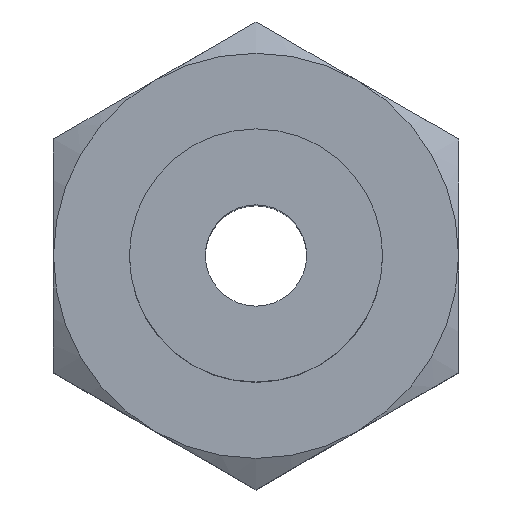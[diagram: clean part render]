
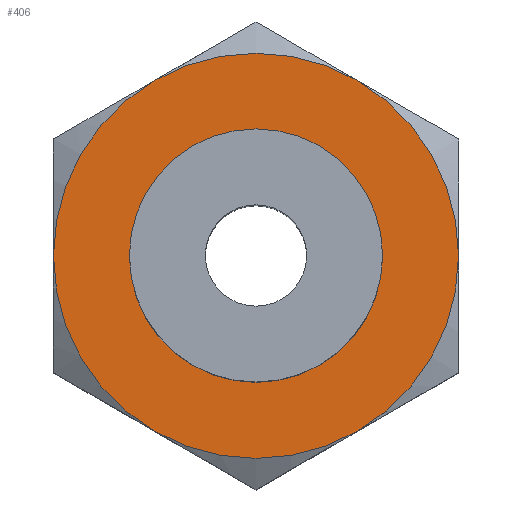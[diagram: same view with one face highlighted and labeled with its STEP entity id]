
A CAD part, top view. The second image highlights one B-rep face of the part: STEP entity #406.
In plain terms, the highlighted planar face has unit normal (0, 0, 1).
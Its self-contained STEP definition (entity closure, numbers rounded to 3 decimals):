
#15=FACE_BOUND('',#106,.T.);
#19=PLANE('',#470);
#79=FACE_OUTER_BOUND('',#105,.T.);
#105=EDGE_LOOP('',(#305,#306,#307,#308,#309,#310));
#106=EDGE_LOOP('',(#311,#312));
#149=CIRCLE('',#459,4.);
#150=CIRCLE('',#461,4.);
#151=CIRCLE('',#463,4.);
#152=CIRCLE('',#465,4.);
#153=CIRCLE('',#467,4.);
#154=CIRCLE('',#469,4.);
#155=CIRCLE('',#471,2.5);
#156=CIRCLE('',#472,2.5);
#179=VERTEX_POINT('',#673);
#180=VERTEX_POINT('',#677);
#181=VERTEX_POINT('',#683);
#183=VERTEX_POINT('',#693);
#186=VERTEX_POINT('',#704);
#187=VERTEX_POINT('',#713);
#190=VERTEX_POINT('',#732);
#191=VERTEX_POINT('',#733);
#223=EDGE_CURVE('',#180,#179,#149,.T.);
#225=EDGE_CURVE('',#181,#180,#150,.T.);
#228=EDGE_CURVE('',#183,#181,#151,.T.);
#232=EDGE_CURVE('',#179,#186,#152,.T.);
#234=EDGE_CURVE('',#187,#183,#153,.T.);
#238=EDGE_CURVE('',#186,#187,#154,.T.);
#239=EDGE_CURVE('',#190,#191,#155,.T.);
#240=EDGE_CURVE('',#191,#190,#156,.T.);
#305=ORIENTED_EDGE('',*,*,#232,.F.);
#306=ORIENTED_EDGE('',*,*,#223,.F.);
#307=ORIENTED_EDGE('',*,*,#225,.F.);
#308=ORIENTED_EDGE('',*,*,#228,.F.);
#309=ORIENTED_EDGE('',*,*,#234,.F.);
#310=ORIENTED_EDGE('',*,*,#238,.F.);
#311=ORIENTED_EDGE('',*,*,#239,.T.);
#312=ORIENTED_EDGE('',*,*,#240,.T.);
#406=ADVANCED_FACE('',(#79,#15),#19,.F.);
#459=AXIS2_PLACEMENT_3D('',#681,#534,#535);
#461=AXIS2_PLACEMENT_3D('',#688,#538,#539);
#463=AXIS2_PLACEMENT_3D('',#698,#542,#543);
#465=AXIS2_PLACEMENT_3D('',#711,#546,#547);
#467=AXIS2_PLACEMENT_3D('',#718,#550,#551);
#469=AXIS2_PLACEMENT_3D('',#730,#554,#555);
#470=AXIS2_PLACEMENT_3D('',#731,#556,#557);
#471=AXIS2_PLACEMENT_3D('',#734,#558,#559);
#472=AXIS2_PLACEMENT_3D('',#735,#560,#561);
#534=DIRECTION('center_axis',(0.,0.,-1.));
#535=DIRECTION('ref_axis',(1.,0.,0.));
#538=DIRECTION('center_axis',(0.,0.,-1.));
#539=DIRECTION('ref_axis',(1.,0.,0.));
#542=DIRECTION('center_axis',(0.,0.,-1.));
#543=DIRECTION('ref_axis',(1.,0.,0.));
#546=DIRECTION('center_axis',(0.,0.,-1.));
#547=DIRECTION('ref_axis',(1.,0.,0.));
#550=DIRECTION('center_axis',(0.,0.,-1.));
#551=DIRECTION('ref_axis',(1.,0.,0.));
#554=DIRECTION('center_axis',(0.,0.,-1.));
#555=DIRECTION('ref_axis',(1.,0.,0.));
#556=DIRECTION('center_axis',(0.,0.,-1.));
#557=DIRECTION('ref_axis',(-1.,0.,0.));
#558=DIRECTION('center_axis',(0.,0.,-1.));
#559=DIRECTION('ref_axis',(1.,0.,0.));
#560=DIRECTION('center_axis',(0.,0.,-1.));
#561=DIRECTION('ref_axis',(1.,0.,0.));
#673=CARTESIAN_POINT('',(2.,-3.464,7.5));
#677=CARTESIAN_POINT('',(4.,0.,7.5));
#681=CARTESIAN_POINT('Origin',(0.,0.,7.5));
#683=CARTESIAN_POINT('',(2.,3.464,7.5));
#688=CARTESIAN_POINT('Origin',(0.,0.,7.5));
#693=CARTESIAN_POINT('',(-2.,3.464,7.5));
#698=CARTESIAN_POINT('Origin',(0.,0.,7.5));
#704=CARTESIAN_POINT('',(-2.,-3.464,7.5));
#711=CARTESIAN_POINT('Origin',(0.,0.,7.5));
#713=CARTESIAN_POINT('',(-4.,0.,7.5));
#718=CARTESIAN_POINT('Origin',(0.,0.,7.5));
#730=CARTESIAN_POINT('Origin',(0.,0.,7.5));
#731=CARTESIAN_POINT('Origin',(0.,-2.5,7.5));
#732=CARTESIAN_POINT('',(0.,-2.5,7.5));
#733=CARTESIAN_POINT('',(0.,2.5,7.5));
#734=CARTESIAN_POINT('Origin',(0.,0.,7.5));
#735=CARTESIAN_POINT('Origin',(0.,0.,7.5));
